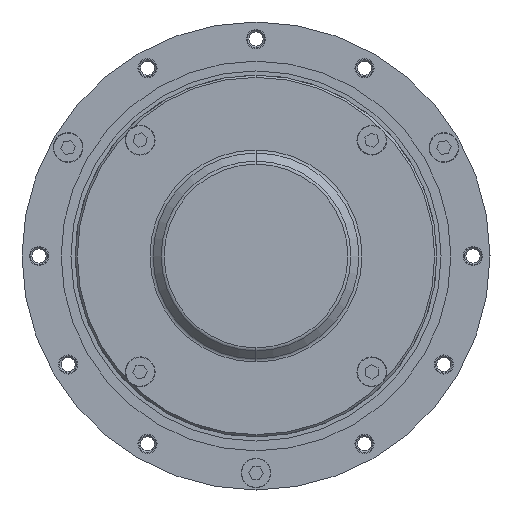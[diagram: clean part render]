
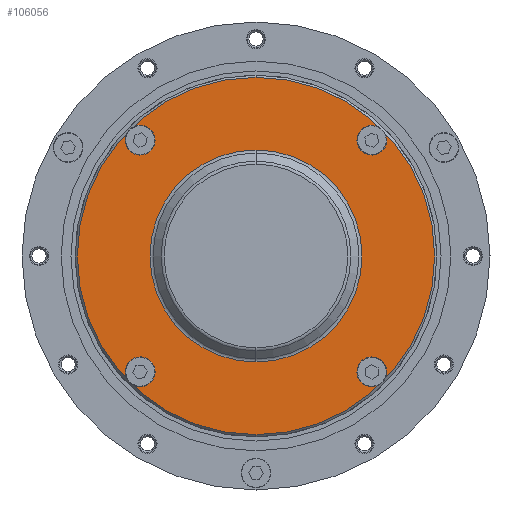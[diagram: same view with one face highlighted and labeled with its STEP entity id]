
A CAD part, front view. The second image highlights one B-rep face of the part: STEP entity #106056.
In plain terms, the highlighted planar face has unit normal (0, -1, 0).
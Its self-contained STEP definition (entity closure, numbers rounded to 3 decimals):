
#99 = CIRCLE ( 'NONE', #126862, 2.25 ) ;
#830 = CARTESIAN_POINT ( 'NONE',  ( -2.734, -15.03, 0. ) ) ;
#866 = EDGE_CURVE ( 'NONE', #110230, #111330, #66949, .T. ) ;
#2429 = CARTESIAN_POINT ( 'NONE',  ( -2.734, -15.03, 0. ) ) ;
#5473 = DIRECTION ( 'NONE',  ( 0., 0., -1. ) ) ;
#7124 = DIRECTION ( 'NONE',  ( 0., 1., 0. ) ) ;
#8740 = FACE_BOUND ( 'NONE', #190234, .T. ) ;
#9421 = DIRECTION ( 'NONE',  ( 0., 0., -1. ) ) ;
#10677 = DIRECTION ( 'NONE',  ( 0., 0., 1. ) ) ;
#11218 = EDGE_CURVE ( 'NONE', #151558, #142747, #76704, .T. ) ;
#12154 = DIRECTION ( 'NONE',  ( 0., 0., -1. ) ) ;
#13465 = ORIENTED_EDGE ( 'NONE', *, *, #169983, .T. ) ;
#17297 = EDGE_LOOP ( 'NONE', ( #56015, #13465 ) ) ;
#20251 = AXIS2_PLACEMENT_3D ( 'NONE', #87668, #151168, #12154 ) ;
#20378 = DIRECTION ( 'NONE',  ( 0., -1., 0. ) ) ;
#24846 = CARTESIAN_POINT ( 'NONE',  ( 24.489, -15.03, 29.474 ) ) ;
#26595 = CARTESIAN_POINT ( 'NONE',  ( -2.734, -15.03, 0. ) ) ;
#27039 = EDGE_LOOP ( 'NONE', ( #118262, #147480 ) ) ;
#28176 = CARTESIAN_POINT ( 'NONE',  ( -29.958, -15.03, 29.474 ) ) ;
#32146 = ORIENTED_EDGE ( 'NONE', *, *, #71975, .F. ) ;
#32788 = EDGE_LOOP ( 'NONE', ( #32146, #106945 ) ) ;
#33685 = AXIS2_PLACEMENT_3D ( 'NONE', #830, #164612, #47517 ) ;
#36737 = VERTEX_POINT ( 'NONE', #24846 ) ;
#37013 = DIRECTION ( 'NONE',  ( 0., -1., 0. ) ) ;
#37177 = CIRCLE ( 'NONE', #148234, 24.914 ) ;
#38033 = EDGE_LOOP ( 'NONE', ( #38421, #177120 ) ) ;
#38421 = ORIENTED_EDGE ( 'NONE', *, *, #11218, .F. ) ;
#39251 = EDGE_CURVE ( 'NONE', #142747, #151558, #192646, .T. ) ;
#39996 = VERTEX_POINT ( 'NONE', #47832 ) ;
#40690 = AXIS2_PLACEMENT_3D ( 'NONE', #52109, #20378, #5473 ) ;
#41817 = DIRECTION ( 'NONE',  ( 0., 0., 1. ) ) ;
#42434 = ORIENTED_EDGE ( 'NONE', *, *, #172579, .T. ) ;
#47517 = DIRECTION ( 'NONE',  ( 0., 0., 1. ) ) ;
#47832 = CARTESIAN_POINT ( 'NONE',  ( -2.734, -15.03, -42. ) ) ;
#51665 = DIRECTION ( 'NONE',  ( 0., -1., 0. ) ) ;
#52109 = CARTESIAN_POINT ( 'NONE',  ( -29.958, -15.03, -27.224 ) ) ;
#55951 = CIRCLE ( 'NONE', #33685, 24.914 ) ;
#56015 = ORIENTED_EDGE ( 'NONE', *, *, #103607, .T. ) ;
#57315 = FACE_BOUND ( 'NONE', #27039, .T. ) ;
#58323 = PLANE ( 'NONE',  #178061 ) ;
#59465 = EDGE_LOOP ( 'NONE', ( #170303, #75212 ) ) ;
#61010 = CIRCLE ( 'NONE', #20251, 2.25 ) ;
#66949 = CIRCLE ( 'NONE', #133549, 2.25 ) ;
#67752 = AXIS2_PLACEMENT_3D ( 'NONE', #2429, #153411, #123557 ) ;
#68292 = EDGE_CURVE ( 'NONE', #193949, #172940, #131719, .T. ) ;
#69301 = FACE_OUTER_BOUND ( 'NONE', #17297, .T. ) ;
#71975 = EDGE_CURVE ( 'NONE', #111330, #110230, #107653, .T. ) ;
#72606 = CIRCLE ( 'NONE', #192981, 42. ) ;
#73553 = CARTESIAN_POINT ( 'NONE',  ( -2.734, -15.03, 0. ) ) ;
#75212 = ORIENTED_EDGE ( 'NONE', *, *, #134279, .F. ) ;
#76704 = CIRCLE ( 'NONE', #187587, 2.25 ) ;
#76981 = DIRECTION ( 'NONE',  ( 0., -1., 0. ) ) ;
#77282 = CIRCLE ( 'NONE', #67752, 42. ) ;
#79879 = ORIENTED_EDGE ( 'NONE', *, *, #138544, .T. ) ;
#85346 = CARTESIAN_POINT ( 'NONE',  ( 24.489, -15.03, 24.974 ) ) ;
#85448 = CARTESIAN_POINT ( 'NONE',  ( -29.958, -15.03, 27.224 ) ) ;
#87668 = CARTESIAN_POINT ( 'NONE',  ( 24.489, -15.03, -27.224 ) ) ;
#93381 = CARTESIAN_POINT ( 'NONE',  ( -29.958, -15.03, -27.224 ) ) ;
#97671 = CARTESIAN_POINT ( 'NONE',  ( -29.958, -15.03, 27.224 ) ) ;
#98194 = VERTEX_POINT ( 'NONE', #183068 ) ;
#99842 = CARTESIAN_POINT ( 'NONE',  ( 24.489, -15.03, 27.224 ) ) ;
#100266 = AXIS2_PLACEMENT_3D ( 'NONE', #189294, #126894, #187329 ) ;
#103607 = EDGE_CURVE ( 'NONE', #143611, #39996, #72606, .T. ) ;
#106056 = ADVANCED_FACE ( 'NONE', ( #8740, #69301, #111074, #171544, #156770, #57315 ), #58323, .F. ) ;
#106824 = CARTESIAN_POINT ( 'NONE',  ( 24.489, -15.03, -27.224 ) ) ;
#106945 = ORIENTED_EDGE ( 'NONE', *, *, #866, .F. ) ;
#107653 = CIRCLE ( 'NONE', #186887, 2.25 ) ;
#110230 = VERTEX_POINT ( 'NONE', #28176 ) ;
#111074 = FACE_BOUND ( 'NONE', #32788, .T. ) ;
#111330 = VERTEX_POINT ( 'NONE', #170266 ) ;
#117255 = DIRECTION ( 'NONE',  ( 0., -1., 0. ) ) ;
#118262 = ORIENTED_EDGE ( 'NONE', *, *, #121517, .F. ) ;
#121517 = EDGE_CURVE ( 'NONE', #179070, #36737, #99, .T. ) ;
#123557 = DIRECTION ( 'NONE',  ( 0., 0., 1. ) ) ;
#126862 = AXIS2_PLACEMENT_3D ( 'NONE', #99842, #149182, #9421 ) ;
#126894 = DIRECTION ( 'NONE',  ( 0., -1., 0. ) ) ;
#131719 = CIRCLE ( 'NONE', #141240, 2.25 ) ;
#132099 = EDGE_CURVE ( 'NONE', #36737, #179070, #182647, .T. ) ;
#133549 = AXIS2_PLACEMENT_3D ( 'NONE', #85448, #51665, #158909 ) ;
#134279 = EDGE_CURVE ( 'NONE', #172940, #193949, #61010, .T. ) ;
#134768 = DIRECTION ( 'NONE',  ( 0., 1., 0. ) ) ;
#138544 = EDGE_CURVE ( 'NONE', #98194, #188639, #37177, .T. ) ;
#138990 = DIRECTION ( 'NONE',  ( 0., 0., -1. ) ) ;
#140357 = DIRECTION ( 'NONE',  ( 0., 0., -1. ) ) ;
#141240 = AXIS2_PLACEMENT_3D ( 'NONE', #106824, #76981, #167236 ) ;
#141954 = CARTESIAN_POINT ( 'NONE',  ( 24.489, -15.03, -29.474 ) ) ;
#142747 = VERTEX_POINT ( 'NONE', #160509 ) ;
#143611 = VERTEX_POINT ( 'NONE', #174173 ) ;
#144250 = CARTESIAN_POINT ( 'NONE',  ( -29.958, -15.03, -29.474 ) ) ;
#147480 = ORIENTED_EDGE ( 'NONE', *, *, #132099, .F. ) ;
#148234 = AXIS2_PLACEMENT_3D ( 'NONE', #175816, #7124, #187776 ) ;
#149182 = DIRECTION ( 'NONE',  ( 0., -1., 0. ) ) ;
#151168 = DIRECTION ( 'NONE',  ( 0., -1., 0. ) ) ;
#151558 = VERTEX_POINT ( 'NONE', #144250 ) ;
#153411 = DIRECTION ( 'NONE',  ( 0., -1., 0. ) ) ;
#156770 = FACE_BOUND ( 'NONE', #59465, .T. ) ;
#158909 = DIRECTION ( 'NONE',  ( 0., 0., -1. ) ) ;
#160509 = CARTESIAN_POINT ( 'NONE',  ( -29.958, -15.03, -24.974 ) ) ;
#161513 = CARTESIAN_POINT ( 'NONE',  ( 24.489, -15.03, -24.974 ) ) ;
#164612 = DIRECTION ( 'NONE',  ( 0., 1., 0. ) ) ;
#167236 = DIRECTION ( 'NONE',  ( 0., 0., -1. ) ) ;
#169983 = EDGE_CURVE ( 'NONE', #39996, #143611, #77282, .T. ) ;
#170266 = CARTESIAN_POINT ( 'NONE',  ( -29.958, -15.03, 24.974 ) ) ;
#170303 = ORIENTED_EDGE ( 'NONE', *, *, #68292, .F. ) ;
#170564 = CARTESIAN_POINT ( 'NONE',  ( -2.734, -15.03, 24.914 ) ) ;
#171544 = FACE_BOUND ( 'NONE', #38033, .T. ) ;
#172579 = EDGE_CURVE ( 'NONE', #188639, #98194, #55951, .T. ) ;
#172940 = VERTEX_POINT ( 'NONE', #161513 ) ;
#174173 = CARTESIAN_POINT ( 'NONE',  ( -2.734, -15.03, 42. ) ) ;
#175816 = CARTESIAN_POINT ( 'NONE',  ( -2.734, -15.03, 0. ) ) ;
#177120 = ORIENTED_EDGE ( 'NONE', *, *, #39251, .F. ) ;
#178061 = AXIS2_PLACEMENT_3D ( 'NONE', #26595, #134768, #10677 ) ;
#179070 = VERTEX_POINT ( 'NONE', #85346 ) ;
#181636 = DIRECTION ( 'NONE',  ( 0., -1., 0. ) ) ;
#182647 = CIRCLE ( 'NONE', #100266, 2.25 ) ;
#183068 = CARTESIAN_POINT ( 'NONE',  ( -2.734, -15.03, -24.914 ) ) ;
#186887 = AXIS2_PLACEMENT_3D ( 'NONE', #97671, #37013, #140357 ) ;
#187329 = DIRECTION ( 'NONE',  ( 0., 0., -1. ) ) ;
#187587 = AXIS2_PLACEMENT_3D ( 'NONE', #93381, #181636, #138990 ) ;
#187776 = DIRECTION ( 'NONE',  ( 0., 0., 1. ) ) ;
#188639 = VERTEX_POINT ( 'NONE', #170564 ) ;
#189294 = CARTESIAN_POINT ( 'NONE',  ( 24.489, -15.03, 27.224 ) ) ;
#190234 = EDGE_LOOP ( 'NONE', ( #42434, #79879 ) ) ;
#192646 = CIRCLE ( 'NONE', #40690, 2.25 ) ;
#192981 = AXIS2_PLACEMENT_3D ( 'NONE', #73553, #117255, #41817 ) ;
#193949 = VERTEX_POINT ( 'NONE', #141954 ) ;
